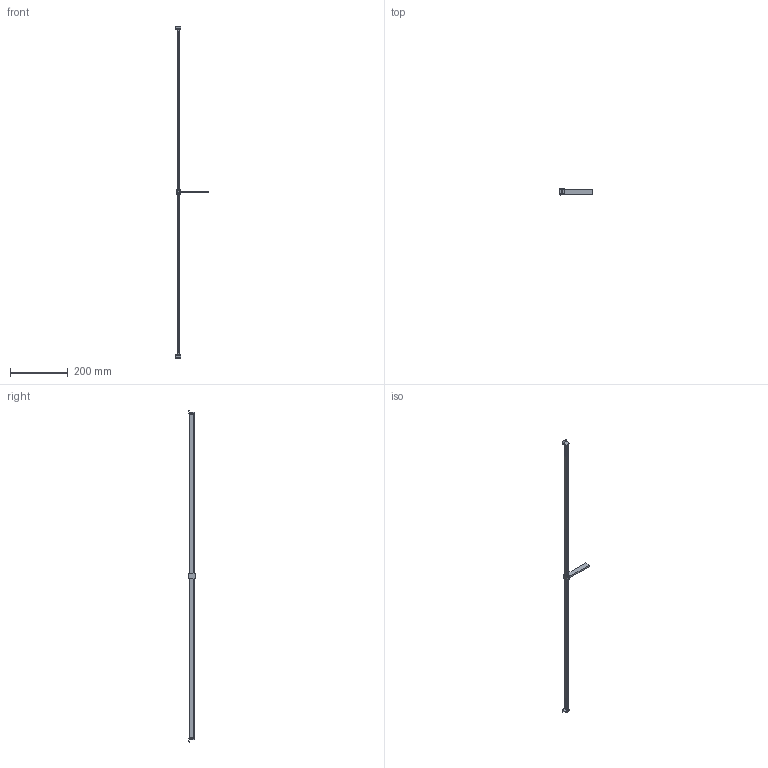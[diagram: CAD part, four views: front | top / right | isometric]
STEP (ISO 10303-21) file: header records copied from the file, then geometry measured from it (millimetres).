
FILE_DESCRIPTION (( 'STEP AP203' ), '1' );
FILE_NAME ('D10010955_KB1200 S16_01.step', '2025-05-06T09:01:32', ( '' ), ( '' ), 'SwSTEP 2.0', 'SolidWorks 2023', '' );
FILE_SCHEMA (( 'CONFIG_CONTROL_DESIGN' ));
Length unit declared in the file: millimetre
Products named in the file (4): D10010954_Standard-Konfiguration; D10010953_S16; D10010955_KB1200 S16_01; D10010952_KB1200
Assembly tree (4 placements, depth 2):
  D10010955_KB1200 S16_01
    D10010952_KB1200
    D10010953_S16  x2
    D10010954_Standard-Konfiguration
Bounding box: 113.24 x 21.7 x 1151 mm (x, y, z)
Volume: 56616.2 mm3; surface area: 113633 mm2
Topology: 4 solids, 4 shells, 231 faces, 651 edges, 434 vertices
Faces by surface type: plane 156, cylinder 65, bspline 10
Entity records: 4897 total; most frequent: CARTESIAN_POINT 868, ORIENTED_EDGE 774, DIRECTION 731, EDGE_CURVE 387, LINE 297, VECTOR 297, VERTEX_POINT 258, AXIS2_PLACEMENT_3D 217
